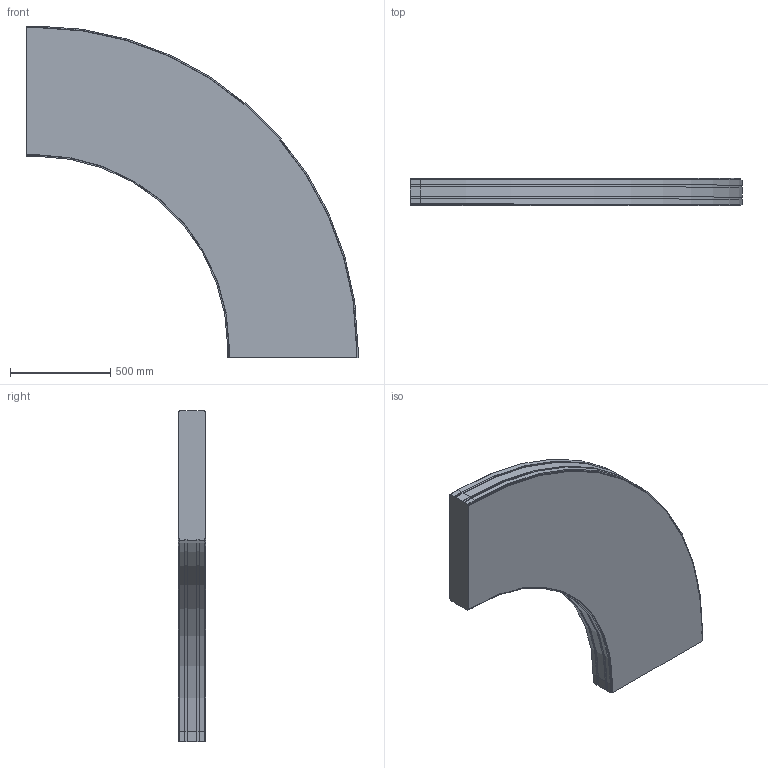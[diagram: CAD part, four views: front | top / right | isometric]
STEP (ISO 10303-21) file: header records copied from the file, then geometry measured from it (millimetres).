
FILE_DESCRIPTION (( 'STEP AP214' ), '1' );
FILE_NAME ('FS-MTC2-150-INOX horizontaalbocht.650 90°.STEP', '2017-02-08T12:40:48', ( '' ), ( '' ), 'SwSTEP 2.0', 'SolidWorks 2016', '' );
FILE_SCHEMA (( 'AUTOMOTIVE_DESIGN' ));
Length unit declared in the file: millimetre
Products named in the file (1): FS-MTC2-150-INOX horizontaalbocht.650 90°
Bounding box: 1657.75 x 136.5 x 1657.75 mm (x, y, z)
Volume: 187215911.8 mm3; surface area: 3549281.7 mm2
Topology: 1 solids, 1 shells, 74 faces, 216 edges, 144 vertices
Faces by surface type: plane 56, cylinder 18
Entity records: 2470 total; most frequent: CARTESIAN_POINT 435, ORIENTED_EDGE 432, DIRECTION 402, EDGE_CURVE 216, VECTOR 180, LINE 180, VERTEX_POINT 144, AXIS2_PLACEMENT_3D 111
